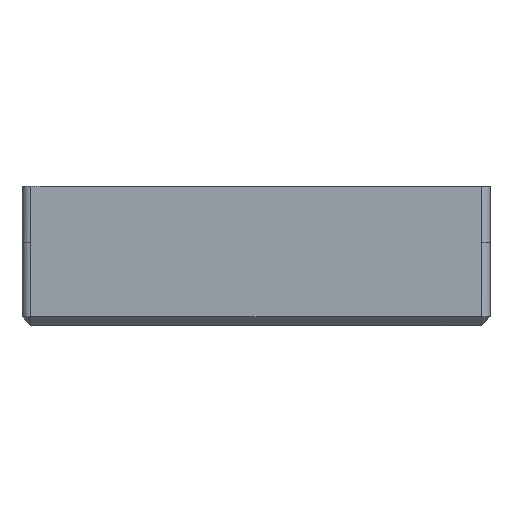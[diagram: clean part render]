
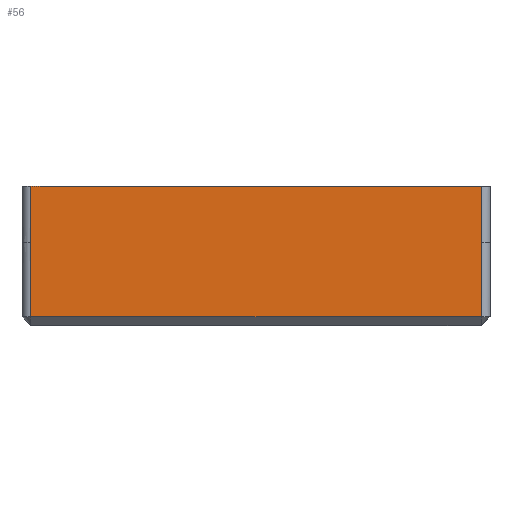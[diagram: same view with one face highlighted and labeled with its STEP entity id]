
A CAD part, left-side view. The second image highlights one B-rep face of the part: STEP entity #56.
In plain terms, the highlighted planar face has unit normal (-1, 0, 0).
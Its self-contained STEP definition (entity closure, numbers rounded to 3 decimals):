
#56=ADVANCED_FACE('',(#119),#940,.T.);
#119=FACE_OUTER_BOUND('',#183,.T.);
#183=EDGE_LOOP('',(#394,#395,#396,#397,#398,#399));
#394=ORIENTED_EDGE('',*,*,#596,.T.);
#395=ORIENTED_EDGE('',*,*,#581,.F.);
#396=ORIENTED_EDGE('',*,*,#587,.T.);
#397=ORIENTED_EDGE('',*,*,#637,.T.);
#398=ORIENTED_EDGE('',*,*,#606,.T.);
#399=ORIENTED_EDGE('',*,*,#607,.T.);
#581=EDGE_CURVE('',#877,#876,#759,.T.);
#587=EDGE_CURVE('',#877,#878,#765,.T.);
#596=EDGE_CURVE('',#879,#876,#766,.T.);
#606=EDGE_CURVE('',#894,#895,#776,.T.);
#607=EDGE_CURVE('',#895,#879,#777,.T.);
#637=EDGE_CURVE('',#878,#894,#799,.T.);
#759=B_SPLINE_CURVE_WITH_KNOTS('',1,(#1571,#1572),.UNSPECIFIED.,.F.,.F.,
(2,2),(414.,514.),.UNSPECIFIED.);
#765=B_SPLINE_CURVE_WITH_KNOTS('',1,(#1583,#1584),.UNSPECIFIED.,.F.,.F.,
(2,2),(0.,12.5),.UNSPECIFIED.);
#766=B_SPLINE_CURVE_WITH_KNOTS('',1,(#1609,#1610),.UNSPECIFIED.,.F.,.F.,
(2,2),(21.5,34.),.UNSPECIFIED.);
#776=B_SPLINE_CURVE_WITH_KNOTS('',1,(#1629,#1630),.UNSPECIFIED.,.F.,.F.,
(2,2),(0.,100.),.UNSPECIFIED.);
#777=B_SPLINE_CURVE_WITH_KNOTS('',1,(#1631,#1632),.UNSPECIFIED.,.F.,.F.,
(2,2),(1.99,18.5),.UNSPECIFIED.);
#799=B_SPLINE_CURVE_WITH_KNOTS('',1,(#1699,#1700),.UNSPECIFIED.,.F.,.F.,
(2,2),(15.5,32.01),.UNSPECIFIED.);
#876=VERTEX_POINT('',#1307);
#877=VERTEX_POINT('',#1308);
#878=VERTEX_POINT('',#1309);
#879=VERTEX_POINT('',#1310);
#894=VERTEX_POINT('',#1325);
#895=VERTEX_POINT('',#1326);
#940=PLANE('',#1020);
#1020=AXIS2_PLACEMENT_3D('',#1168,#1064,$);
#1064=DIRECTION('',(-1.,0.,0.));
#1168=CARTESIAN_POINT('',(0.,104.,-3.));
#1307=CARTESIAN_POINT('',(0.,2.,31.));
#1308=CARTESIAN_POINT('',(0.,102.,31.));
#1309=CARTESIAN_POINT('',(0.,102.,18.5));
#1310=CARTESIAN_POINT('',(0.,2.,18.5));
#1325=CARTESIAN_POINT('',(0.,102.,1.99));
#1326=CARTESIAN_POINT('',(0.,2.,1.99));
#1571=CARTESIAN_POINT('',(0.,102.,31.));
#1572=CARTESIAN_POINT('',(0.,2.,31.));
#1583=CARTESIAN_POINT('',(0.,102.,31.));
#1584=CARTESIAN_POINT('',(0.,102.,18.5));
#1609=CARTESIAN_POINT('',(0.,2.,18.5));
#1610=CARTESIAN_POINT('',(0.,2.,31.));
#1629=CARTESIAN_POINT('',(0.,102.,1.99));
#1630=CARTESIAN_POINT('',(0.,2.,1.99));
#1631=CARTESIAN_POINT('',(0.,2.,1.99));
#1632=CARTESIAN_POINT('',(0.,2.,18.5));
#1699=CARTESIAN_POINT('',(0.,102.,18.5));
#1700=CARTESIAN_POINT('',(0.,102.,1.99));
